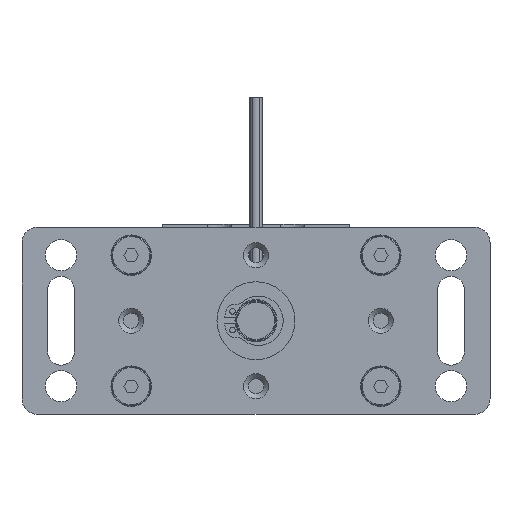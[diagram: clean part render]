
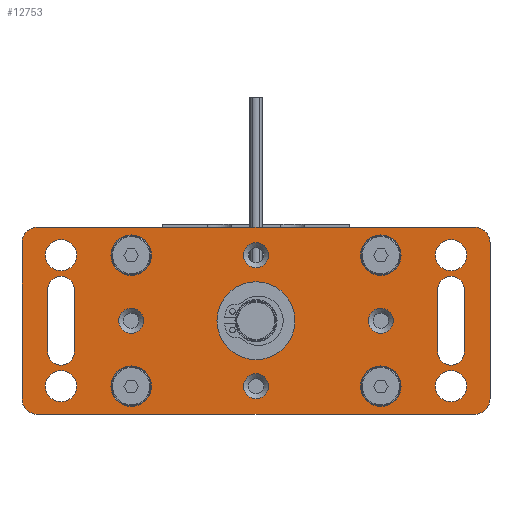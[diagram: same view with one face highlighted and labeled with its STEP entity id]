
A CAD part, front view. The second image highlights one B-rep face of the part: STEP entity #12753.
In plain terms, the highlighted planar face has unit normal (0, -1, 0).
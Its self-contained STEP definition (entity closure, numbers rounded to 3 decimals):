
#863=LINE('',#18686,#1528);
#864=LINE('',#18690,#1529);
#865=LINE('',#18697,#1530);
#866=LINE('',#18702,#1531);
#867=LINE('',#18706,#1532);
#868=LINE('',#18710,#1533);
#869=LINE('',#18733,#1534);
#870=LINE('',#18738,#1535);
#1528=VECTOR('',#15265,1000.);
#1529=VECTOR('',#15268,1000.);
#1530=VECTOR('',#15275,1000.);
#1531=VECTOR('',#15278,1000.);
#1532=VECTOR('',#15281,1000.);
#1533=VECTOR('',#15284,1000.);
#1534=VECTOR('',#15307,1000.);
#1535=VECTOR('',#15310,1000.);
#2713=ORIENTED_EDGE('',*,*,#5722,.F.);
#2714=ORIENTED_EDGE('',*,*,#5723,.F.);
#2715=ORIENTED_EDGE('',*,*,#5724,.F.);
#2716=ORIENTED_EDGE('',*,*,#5725,.F.);
#2717=ORIENTED_EDGE('',*,*,#5726,.F.);
#2718=ORIENTED_EDGE('',*,*,#5727,.T.);
#2719=ORIENTED_EDGE('',*,*,#5728,.F.);
#2720=ORIENTED_EDGE('',*,*,#5729,.T.);
#2721=ORIENTED_EDGE('',*,*,#5730,.T.);
#2722=ORIENTED_EDGE('',*,*,#5731,.T.);
#2723=ORIENTED_EDGE('',*,*,#5732,.T.);
#2724=ORIENTED_EDGE('',*,*,#5733,.T.);
#2725=ORIENTED_EDGE('',*,*,#5734,.T.);
#2726=ORIENTED_EDGE('',*,*,#5735,.T.);
#2727=ORIENTED_EDGE('',*,*,#5736,.T.);
#2728=ORIENTED_EDGE('',*,*,#5737,.F.);
#2729=ORIENTED_EDGE('',*,*,#5738,.T.);
#2730=ORIENTED_EDGE('',*,*,#5739,.F.);
#2731=ORIENTED_EDGE('',*,*,#5740,.F.);
#2732=ORIENTED_EDGE('',*,*,#5741,.F.);
#2733=ORIENTED_EDGE('',*,*,#5742,.F.);
#2734=ORIENTED_EDGE('',*,*,#5743,.T.);
#2735=ORIENTED_EDGE('',*,*,#5744,.T.);
#2736=ORIENTED_EDGE('',*,*,#5745,.T.);
#2737=ORIENTED_EDGE('',*,*,#5746,.T.);
#2738=ORIENTED_EDGE('',*,*,#5747,.T.);
#2739=ORIENTED_EDGE('',*,*,#5748,.T.);
#2740=ORIENTED_EDGE('',*,*,#5749,.T.);
#2741=ORIENTED_EDGE('',*,*,#5750,.T.);
#5722=EDGE_CURVE('',#7271,#7272,#8249,.T.);
#5723=EDGE_CURVE('',#7273,#7271,#863,.T.);
#5724=EDGE_CURVE('',#7274,#7273,#8250,.T.);
#5725=EDGE_CURVE('',#7272,#7274,#864,.T.);
#5726=EDGE_CURVE('',#7275,#7275,#8251,.T.);
#5727=EDGE_CURVE('',#7276,#7276,#8252,.T.);
#5728=EDGE_CURVE('',#7277,#7277,#8253,.T.);
#5729=EDGE_CURVE('',#7278,#7279,#865,.T.);
#5730=EDGE_CURVE('',#7279,#7280,#8254,.T.);
#5731=EDGE_CURVE('',#7280,#7281,#866,.T.);
#5732=EDGE_CURVE('',#7281,#7282,#8255,.T.);
#5733=EDGE_CURVE('',#7282,#7283,#867,.T.);
#5734=EDGE_CURVE('',#7283,#7284,#8256,.T.);
#5735=EDGE_CURVE('',#7284,#7285,#868,.T.);
#5736=EDGE_CURVE('',#7285,#7278,#8257,.T.);
#5737=EDGE_CURVE('',#7286,#7286,#8258,.T.);
#5738=EDGE_CURVE('',#7287,#7287,#8259,.T.);
#5739=EDGE_CURVE('',#7288,#7288,#8260,.T.);
#5740=EDGE_CURVE('',#7289,#7289,#8261,.T.);
#5741=EDGE_CURVE('',#7290,#7290,#8262,.T.);
#5742=EDGE_CURVE('',#7291,#7291,#8263,.T.);
#5743=EDGE_CURVE('',#7292,#7292,#8264,.F.);
#5744=EDGE_CURVE('',#7293,#7293,#8265,.F.);
#5745=EDGE_CURVE('',#7294,#7294,#8266,.F.);
#5746=EDGE_CURVE('',#7295,#7295,#8267,.F.);
#5747=EDGE_CURVE('',#7296,#7297,#869,.T.);
#5748=EDGE_CURVE('',#7297,#7298,#8268,.T.);
#5749=EDGE_CURVE('',#7298,#7299,#870,.T.);
#5750=EDGE_CURVE('',#7299,#7296,#8269,.T.);
#7271=VERTEX_POINT('',#18684);
#7272=VERTEX_POINT('',#18685);
#7273=VERTEX_POINT('',#18687);
#7274=VERTEX_POINT('',#18689);
#7275=VERTEX_POINT('',#18692);
#7276=VERTEX_POINT('',#18694);
#7277=VERTEX_POINT('',#18696);
#7278=VERTEX_POINT('',#18698);
#7279=VERTEX_POINT('',#18699);
#7280=VERTEX_POINT('',#18701);
#7281=VERTEX_POINT('',#18703);
#7282=VERTEX_POINT('',#18705);
#7283=VERTEX_POINT('',#18707);
#7284=VERTEX_POINT('',#18709);
#7285=VERTEX_POINT('',#18711);
#7286=VERTEX_POINT('',#18714);
#7287=VERTEX_POINT('',#18716);
#7288=VERTEX_POINT('',#18718);
#7289=VERTEX_POINT('',#18720);
#7290=VERTEX_POINT('',#18722);
#7291=VERTEX_POINT('',#18724);
#7292=VERTEX_POINT('',#18726);
#7293=VERTEX_POINT('',#18728);
#7294=VERTEX_POINT('',#18730);
#7295=VERTEX_POINT('',#18732);
#7296=VERTEX_POINT('',#18734);
#7297=VERTEX_POINT('',#18735);
#7298=VERTEX_POINT('',#18737);
#7299=VERTEX_POINT('',#18739);
#8249=CIRCLE('',#13680,4.25);
#8250=CIRCLE('',#13681,4.25);
#8251=CIRCLE('',#13682,12.5);
#8252=CIRCLE('',#13683,5.);
#8253=CIRCLE('',#13684,5.);
#8254=CIRCLE('',#13685,5.);
#8255=CIRCLE('',#13686,5.);
#8256=CIRCLE('',#13687,5.);
#8257=CIRCLE('',#13688,5.);
#8258=CIRCLE('',#13689,5.);
#8259=CIRCLE('',#13690,5.);
#8260=CIRCLE('',#13691,6.5);
#8261=CIRCLE('',#13692,6.5);
#8262=CIRCLE('',#13693,6.5);
#8263=CIRCLE('',#13694,6.5);
#8264=CIRCLE('',#13695,3.999);
#8265=CIRCLE('',#13696,3.999);
#8266=CIRCLE('',#13697,3.999);
#8267=CIRCLE('',#13698,3.999);
#8268=CIRCLE('',#13699,4.25);
#8269=CIRCLE('',#13700,4.25);
#8880=EDGE_LOOP('',(#2713,#2714,#2715,#2716));
#8881=EDGE_LOOP('',(#2717));
#8882=EDGE_LOOP('',(#2718));
#8883=EDGE_LOOP('',(#2719));
#8884=EDGE_LOOP('',(#2720,#2721,#2722,#2723,#2724,#2725,#2726,#2727));
#8885=EDGE_LOOP('',(#2728));
#8886=EDGE_LOOP('',(#2729));
#8887=EDGE_LOOP('',(#2730));
#8888=EDGE_LOOP('',(#2731));
#8889=EDGE_LOOP('',(#2732));
#8890=EDGE_LOOP('',(#2733));
#8891=EDGE_LOOP('',(#2734));
#8892=EDGE_LOOP('',(#2735));
#8893=EDGE_LOOP('',(#2736));
#8894=EDGE_LOOP('',(#2737));
#8895=EDGE_LOOP('',(#2738,#2739,#2740,#2741));
#9866=FACE_BOUND('',#8880,.T.);
#9867=FACE_BOUND('',#8881,.T.);
#9868=FACE_BOUND('',#8882,.T.);
#9869=FACE_BOUND('',#8883,.T.);
#9870=FACE_BOUND('',#8884,.T.);
#9871=FACE_BOUND('',#8885,.T.);
#9872=FACE_BOUND('',#8886,.T.);
#9873=FACE_BOUND('',#8887,.T.);
#9874=FACE_BOUND('',#8888,.T.);
#9875=FACE_BOUND('',#8889,.T.);
#9876=FACE_BOUND('',#8890,.T.);
#9877=FACE_BOUND('',#8891,.T.);
#9878=FACE_BOUND('',#8892,.T.);
#9879=FACE_BOUND('',#8893,.T.);
#9880=FACE_BOUND('',#8894,.T.);
#9881=FACE_BOUND('',#8895,.T.);
#10714=PLANE('',#13679);
#12753=ADVANCED_FACE('',(#9866,#9867,#9868,#9869,#9870,#9871,#9872,#9873,
#9874,#9875,#9876,#9877,#9878,#9879,#9880,#9881),#10714,.T.);
#13679=AXIS2_PLACEMENT_3D('',#18682,#15261,#15262);
#13680=AXIS2_PLACEMENT_3D('',#18683,#15263,#15264);
#13681=AXIS2_PLACEMENT_3D('',#18688,#15266,#15267);
#13682=AXIS2_PLACEMENT_3D('',#18691,#15269,#15270);
#13683=AXIS2_PLACEMENT_3D('',#18693,#15271,#15272);
#13684=AXIS2_PLACEMENT_3D('',#18695,#15273,#15274);
#13685=AXIS2_PLACEMENT_3D('',#18700,#15276,#15277);
#13686=AXIS2_PLACEMENT_3D('',#18704,#15279,#15280);
#13687=AXIS2_PLACEMENT_3D('',#18708,#15282,#15283);
#13688=AXIS2_PLACEMENT_3D('',#18712,#15285,#15286);
#13689=AXIS2_PLACEMENT_3D('',#18713,#15287,#15288);
#13690=AXIS2_PLACEMENT_3D('',#18715,#15289,#15290);
#13691=AXIS2_PLACEMENT_3D('',#18717,#15291,#15292);
#13692=AXIS2_PLACEMENT_3D('',#18719,#15293,#15294);
#13693=AXIS2_PLACEMENT_3D('',#18721,#15295,#15296);
#13694=AXIS2_PLACEMENT_3D('',#18723,#15297,#15298);
#13695=AXIS2_PLACEMENT_3D('',#18725,#15299,#15300);
#13696=AXIS2_PLACEMENT_3D('',#18727,#15301,#15302);
#13697=AXIS2_PLACEMENT_3D('',#18729,#15303,#15304);
#13698=AXIS2_PLACEMENT_3D('',#18731,#15305,#15306);
#13699=AXIS2_PLACEMENT_3D('',#18736,#15308,#15309);
#13700=AXIS2_PLACEMENT_3D('',#18740,#15311,#15312);
#15261=DIRECTION('',(0.,-1.,0.));
#15262=DIRECTION('',(0.,0.,-1.));
#15263=DIRECTION('',(0.,-1.,0.));
#15264=DIRECTION('',(1.,0.,0.));
#15265=DIRECTION('',(0.,0.,1.));
#15266=DIRECTION('',(0.,-1.,0.));
#15267=DIRECTION('',(-1.,0.,0.));
#15268=DIRECTION('',(0.,0.,-1.));
#15269=DIRECTION('',(0.,-1.,0.));
#15270=DIRECTION('',(0.,0.,-1.));
#15271=DIRECTION('',(0.,1.,0.));
#15272=DIRECTION('',(1.,0.,0.));
#15273=DIRECTION('',(0.,-1.,0.));
#15274=DIRECTION('',(1.,0.,0.));
#15275=DIRECTION('',(0.,0.,1.));
#15276=DIRECTION('',(0.,-1.,0.));
#15277=DIRECTION('',(0.,0.,-1.));
#15278=DIRECTION('',(-1.,0.,0.));
#15279=DIRECTION('',(0.,-1.,0.));
#15280=DIRECTION('',(0.,0.,-1.));
#15281=DIRECTION('',(0.,0.,-1.));
#15282=DIRECTION('',(0.,-1.,0.));
#15283=DIRECTION('',(0.,0.,-1.));
#15284=DIRECTION('',(1.,0.,0.));
#15285=DIRECTION('',(0.,-1.,0.));
#15286=DIRECTION('',(0.,0.,-1.));
#15287=DIRECTION('',(0.,-1.,0.));
#15288=DIRECTION('',(1.,0.,0.));
#15289=DIRECTION('',(0.,1.,0.));
#15290=DIRECTION('',(1.,0.,0.));
#15291=DIRECTION('',(0.,-1.,0.));
#15292=DIRECTION('',(1.,0.,0.));
#15293=DIRECTION('',(0.,-1.,0.));
#15294=DIRECTION('',(0.,0.,-1.));
#15295=DIRECTION('',(0.,-1.,0.));
#15296=DIRECTION('',(0.,0.,-1.));
#15297=DIRECTION('',(0.,-1.,0.));
#15298=DIRECTION('',(0.,0.,-1.));
#15299=DIRECTION('',(0.,-1.,0.));
#15300=DIRECTION('',(0.,0.,-1.));
#15301=DIRECTION('',(0.,-1.,0.));
#15302=DIRECTION('',(0.,0.,-1.));
#15303=DIRECTION('',(0.,-1.,0.));
#15304=DIRECTION('',(0.,0.,-1.));
#15305=DIRECTION('',(0.,-1.,0.));
#15306=DIRECTION('',(0.,0.,-1.));
#15307=DIRECTION('',(0.,0.,1.));
#15308=DIRECTION('',(0.,1.,0.));
#15309=DIRECTION('',(-1.,0.,0.));
#15310=DIRECTION('',(0.,0.,-1.));
#15311=DIRECTION('',(0.,1.,0.));
#15312=DIRECTION('',(1.,0.,0.));
#18682=CARTESIAN_POINT('',(-75.,0.,-30.));
#18683=CARTESIAN_POINT('',(-62.5,0.,10.));
#18684=CARTESIAN_POINT('',(-58.25,0.,10.));
#18685=CARTESIAN_POINT('',(-66.75,0.,10.));
#18686=CARTESIAN_POINT('',(-58.25,0.,10.));
#18687=CARTESIAN_POINT('',(-58.25,0.,-10.));
#18688=CARTESIAN_POINT('',(-62.5,0.,-10.));
#18689=CARTESIAN_POINT('',(-66.75,0.,-10.));
#18690=CARTESIAN_POINT('',(-66.75,0.,10.));
#18691=CARTESIAN_POINT('',(0.,0.,0.));
#18692=CARTESIAN_POINT('',(0.,0.,-12.5));
#18693=CARTESIAN_POINT('',(62.5,0.,-21.));
#18694=CARTESIAN_POINT('',(67.5,0.,-21.));
#18695=CARTESIAN_POINT('',(62.5,0.,21.));
#18696=CARTESIAN_POINT('',(67.5,0.,21.));
#18697=CARTESIAN_POINT('',(75.,0.,-30.));
#18698=CARTESIAN_POINT('',(75.,0.,-25.));
#18699=CARTESIAN_POINT('',(75.,0.,25.));
#18700=CARTESIAN_POINT('',(70.,0.,25.));
#18701=CARTESIAN_POINT('',(70.,0.,30.));
#18702=CARTESIAN_POINT('',(75.,0.,30.));
#18703=CARTESIAN_POINT('',(-70.,0.,30.));
#18704=CARTESIAN_POINT('',(-70.,0.,25.));
#18705=CARTESIAN_POINT('',(-75.,0.,25.));
#18706=CARTESIAN_POINT('',(-75.,0.,30.));
#18707=CARTESIAN_POINT('',(-75.,0.,-25.));
#18708=CARTESIAN_POINT('',(-70.,0.,-25.));
#18709=CARTESIAN_POINT('',(-70.,0.,-30.));
#18710=CARTESIAN_POINT('',(-75.,0.,-30.));
#18711=CARTESIAN_POINT('',(70.,0.,-30.));
#18712=CARTESIAN_POINT('',(70.,0.,-25.));
#18713=CARTESIAN_POINT('',(-62.5,0.,-21.));
#18714=CARTESIAN_POINT('',(-57.5,0.,-21.));
#18715=CARTESIAN_POINT('',(-62.5,0.,21.));
#18716=CARTESIAN_POINT('',(-57.5,0.,21.));
#18717=CARTESIAN_POINT('',(40.,0.,21.));
#18718=CARTESIAN_POINT('',(46.5,0.,21.));
#18719=CARTESIAN_POINT('',(40.,0.,-21.));
#18720=CARTESIAN_POINT('',(40.,0.,-27.5));
#18721=CARTESIAN_POINT('',(-40.,0.,21.));
#18722=CARTESIAN_POINT('',(-40.,0.,14.5));
#18723=CARTESIAN_POINT('',(-40.,0.,-21.));
#18724=CARTESIAN_POINT('',(-40.,0.,-27.5));
#18725=CARTESIAN_POINT('',(40.,0.,0.));
#18726=CARTESIAN_POINT('',(40.,0.,-3.999));
#18727=CARTESIAN_POINT('',(0.,0.,21.));
#18728=CARTESIAN_POINT('',(0.,0.,17.002));
#18729=CARTESIAN_POINT('',(-40.,0.,0.));
#18730=CARTESIAN_POINT('',(-40.,0.,-3.999));
#18731=CARTESIAN_POINT('',(0.,0.,-21.));
#18732=CARTESIAN_POINT('',(0.,0.,-24.999));
#18733=CARTESIAN_POINT('',(58.25,0.,10.));
#18734=CARTESIAN_POINT('',(58.25,0.,-10.));
#18735=CARTESIAN_POINT('',(58.25,0.,10.));
#18736=CARTESIAN_POINT('',(62.5,0.,10.));
#18737=CARTESIAN_POINT('',(66.75,0.,10.));
#18738=CARTESIAN_POINT('',(66.75,0.,10.));
#18739=CARTESIAN_POINT('',(66.75,0.,-10.));
#18740=CARTESIAN_POINT('',(62.5,0.,-10.));
